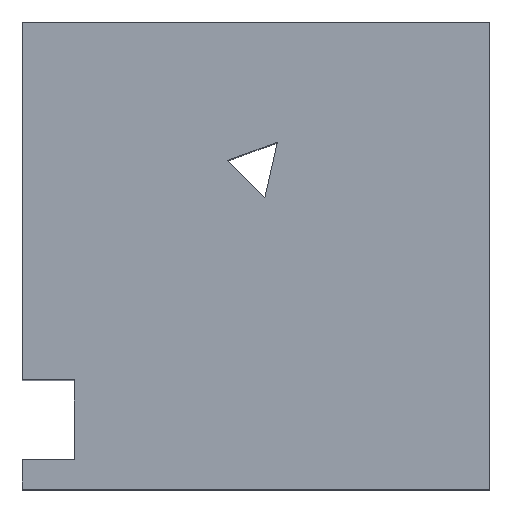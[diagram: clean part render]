
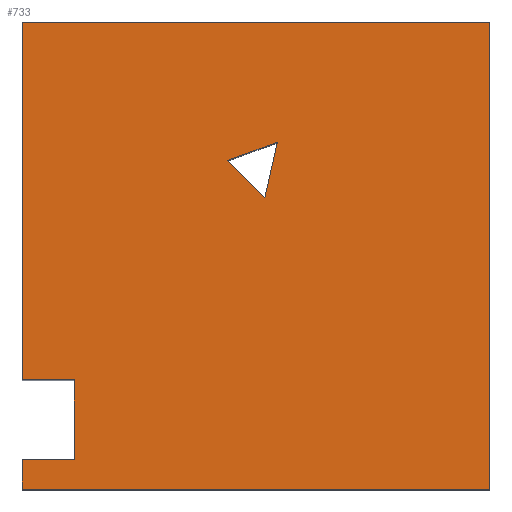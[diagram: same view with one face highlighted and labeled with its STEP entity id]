
A CAD part, top view. The second image highlights one B-rep face of the part: STEP entity #733.
In plain terms, the highlighted planar face has unit normal (0, 0, 1).
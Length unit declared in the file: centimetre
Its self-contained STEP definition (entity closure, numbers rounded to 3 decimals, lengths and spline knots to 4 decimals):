
#20 = VERTEX_POINT ( 'NONE', #1143 ) ;
#27 = VECTOR ( 'NONE', #917, 100. ) ;
#32 = VERTEX_POINT ( 'NONE', #98 ) ;
#36 = DIRECTION ( 'NONE',  ( 1., 0., 0. ) ) ;
#38 = VECTOR ( 'NONE', #612, 100. ) ;
#64 = ORIENTED_EDGE ( 'NONE', *, *, #1300, .T. ) ;
#98 = CARTESIAN_POINT ( 'NONE',  ( 0., 0., 1000. ) ) ;
#99 = PLANE ( 'NONE',  #1200 ) ;
#116 = ORIENTED_EDGE ( 'NONE', *, *, #1569, .T. ) ;
#120 = EDGE_CURVE ( 'NONE', #1063, #32, #290, .T. ) ;
#130 = VECTOR ( 'NONE', #1586, 100. ) ;
#163 = CARTESIAN_POINT ( 'NONE',  ( 0., 0., 1000. ) ) ;
#199 = DIRECTION ( 'NONE',  ( 0.939, 0.343, 0. ) ) ;
#212 = DIRECTION ( 'NONE',  ( 0., -1., 0. ) ) ;
#241 = VECTOR ( 'NONE', #449, 100. ) ;
#264 = CARTESIAN_POINT ( 'NONE',  ( 545.6245, 742.6098, 1000. ) ) ;
#265 = LINE ( 'NONE', #1199, #350 ) ;
#290 = LINE ( 'NONE', #660, #27 ) ;
#306 = ORIENTED_EDGE ( 'NONE', *, *, #413, .T. ) ;
#337 = VECTOR ( 'NONE', #212, 100. ) ;
#341 = DIRECTION ( 'NONE',  ( 1., 0., 0. ) ) ;
#350 = VECTOR ( 'NONE', #786, 100. ) ;
#355 = ORIENTED_EDGE ( 'NONE', *, *, #1338, .T. ) ;
#369 = CARTESIAN_POINT ( 'NONE',  ( 0., 1000., 1000. ) ) ;
#383 = EDGE_LOOP ( 'NONE', ( #1192, #816, #306, #355, #1416, #1343, #1422, #1061 ) ) ;
#404 = CARTESIAN_POINT ( 'NONE',  ( 0., 234.0929, 1000. ) ) ;
#413 = EDGE_CURVE ( 'NONE', #32, #942, #1555, .T. ) ;
#420 = CARTESIAN_POINT ( 'NONE',  ( 111.454, 63.5391, 1000. ) ) ;
#438 = DIRECTION ( 'NONE',  ( -0.707, 0.707, 0. ) ) ;
#449 = DIRECTION ( 'NONE',  ( 0., -1., 0. ) ) ;
#521 = VERTEX_POINT ( 'NONE', #264 ) ;
#541 = VECTOR ( 'NONE', #1306, 100. ) ;
#562 = LINE ( 'NONE', #1084, #337 ) ;
#570 = LINE ( 'NONE', #722, #795 ) ;
#581 = EDGE_CURVE ( 'NONE', #1021, #1009, #570, .T. ) ;
#610 = VECTOR ( 'NONE', #1005, 100. ) ;
#612 = DIRECTION ( 'NONE',  ( 1., 0., 0. ) ) ;
#619 = CARTESIAN_POINT ( 'NONE',  ( 0., 63.5391, 1000. ) ) ;
#660 = CARTESIAN_POINT ( 'NONE',  ( 0., 1000., 1000. ) ) ;
#670 = CARTESIAN_POINT ( 'NONE',  ( 518.9736, 623.8166, 1000. ) ) ;
#689 = LINE ( 'NONE', #670, #130 ) ;
#706 = CARTESIAN_POINT ( 'NONE',  ( 1000., 0., 1000. ) ) ;
#718 = EDGE_CURVE ( 'NONE', #867, #1316, #562, .T. ) ;
#722 = CARTESIAN_POINT ( 'NONE',  ( 439.0866, 703.7036, 1000. ) ) ;
#733 = ADVANCED_FACE ( 'NONE', ( #738, #1374 ), #99, .T. ) ;
#738 = FACE_OUTER_BOUND ( 'NONE', #383, .T. ) ;
#786 = DIRECTION ( 'NONE',  ( -1., 0., 0. ) ) ;
#795 = VECTOR ( 'NONE', #438, 100. ) ;
#816 = ORIENTED_EDGE ( 'NONE', *, *, #120, .T. ) ;
#830 = CARTESIAN_POINT ( 'NONE',  ( 439.0866, 703.7036, 1000. ) ) ;
#834 = CARTESIAN_POINT ( 'NONE',  ( 111.454, 234.0929, 1000. ) ) ;
#867 = VERTEX_POINT ( 'NONE', #369 ) ;
#917 = DIRECTION ( 'NONE',  ( 0., -1., 0. ) ) ;
#942 = VERTEX_POINT ( 'NONE', #706 ) ;
#951 = LINE ( 'NONE', #420, #241 ) ;
#994 = CARTESIAN_POINT ( 'NONE',  ( 0., 0., 1000. ) ) ;
#1005 = DIRECTION ( 'NONE',  ( -1., 0., 0. ) ) ;
#1009 = VERTEX_POINT ( 'NONE', #830 ) ;
#1014 = CARTESIAN_POINT ( 'NONE',  ( 0., 63.5391, 1000. ) ) ;
#1021 = VERTEX_POINT ( 'NONE', #1600 ) ;
#1041 = EDGE_CURVE ( 'NONE', #1667, #1063, #1385, .T. ) ;
#1061 = ORIENTED_EDGE ( 'NONE', *, *, #1445, .T. ) ;
#1063 = VERTEX_POINT ( 'NONE', #619 ) ;
#1084 = CARTESIAN_POINT ( 'NONE',  ( 0., 1000., 1000. ) ) ;
#1117 = CARTESIAN_POINT ( 'NONE',  ( 545.6245, 742.6098, 1000. ) ) ;
#1129 = EDGE_CURVE ( 'NONE', #1316, #1509, #1655, .T. ) ;
#1140 = CARTESIAN_POINT ( 'NONE',  ( 0., 234.0929, 1000. ) ) ;
#1143 = CARTESIAN_POINT ( 'NONE',  ( 1000., 1000., 1000. ) ) ;
#1192 = ORIENTED_EDGE ( 'NONE', *, *, #1041, .T. ) ;
#1199 = CARTESIAN_POINT ( 'NONE',  ( 0., 1000., 1000. ) ) ;
#1200 = AXIS2_PLACEMENT_3D ( 'NONE', #994, #1249, #341 ) ;
#1249 = DIRECTION ( 'NONE',  ( 0., 0., 1. ) ) ;
#1263 = CARTESIAN_POINT ( 'NONE',  ( 111.454, 63.5391, 1000. ) ) ;
#1300 = EDGE_CURVE ( 'NONE', #521, #1021, #689, .T. ) ;
#1302 = VECTOR ( 'NONE', #36, 100. ) ;
#1306 = DIRECTION ( 'NONE',  ( 0., 1., 0. ) ) ;
#1316 = VERTEX_POINT ( 'NONE', #404 ) ;
#1338 = EDGE_CURVE ( 'NONE', #942, #20, #1419, .T. ) ;
#1343 = ORIENTED_EDGE ( 'NONE', *, *, #718, .T. ) ;
#1368 = EDGE_LOOP ( 'NONE', ( #116, #64, #1397 ) ) ;
#1374 = FACE_BOUND ( 'NONE', #1368, .T. ) ;
#1381 = EDGE_CURVE ( 'NONE', #20, #867, #265, .T. ) ;
#1385 = LINE ( 'NONE', #1014, #610 ) ;
#1397 = ORIENTED_EDGE ( 'NONE', *, *, #581, .T. ) ;
#1416 = ORIENTED_EDGE ( 'NONE', *, *, #1381, .T. ) ;
#1419 = LINE ( 'NONE', #1431, #541 ) ;
#1422 = ORIENTED_EDGE ( 'NONE', *, *, #1129, .T. ) ;
#1431 = CARTESIAN_POINT ( 'NONE',  ( 1000., 1000., 1000. ) ) ;
#1445 = EDGE_CURVE ( 'NONE', #1509, #1667, #951, .T. ) ;
#1505 = LINE ( 'NONE', #1117, #1617 ) ;
#1509 = VERTEX_POINT ( 'NONE', #834 ) ;
#1555 = LINE ( 'NONE', #163, #1302 ) ;
#1569 = EDGE_CURVE ( 'NONE', #1009, #521, #1505, .T. ) ;
#1586 = DIRECTION ( 'NONE',  ( -0.219, -0.976, 0. ) ) ;
#1600 = CARTESIAN_POINT ( 'NONE',  ( 518.9736, 623.8166, 1000. ) ) ;
#1617 = VECTOR ( 'NONE', #199, 100. ) ;
#1655 = LINE ( 'NONE', #1140, #38 ) ;
#1667 = VERTEX_POINT ( 'NONE', #1263 ) ;
